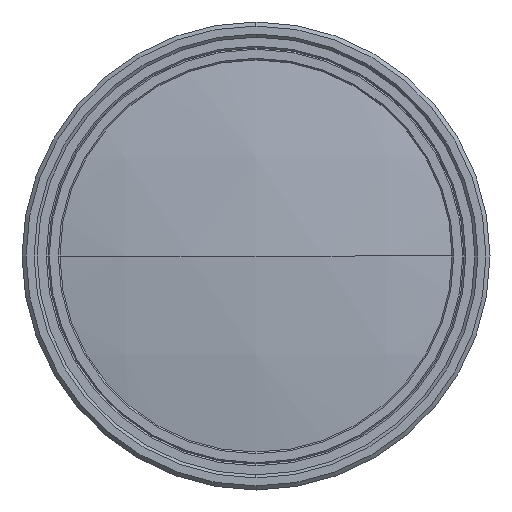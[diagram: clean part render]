
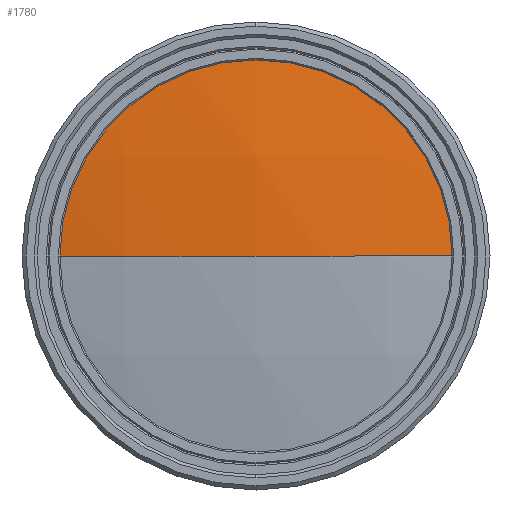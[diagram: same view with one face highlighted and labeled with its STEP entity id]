
A CAD part, left-side view. The second image highlights one B-rep face of the part: STEP entity #1780.
In plain terms, the highlighted spherical face has radius 146.2 mm.
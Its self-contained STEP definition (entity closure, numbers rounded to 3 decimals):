
#7 = DIRECTION ( 'NONE',  ( 0., 1., 0. ) ) ;
#218 = EDGE_CURVE ( 'NONE', #3448, #511, #741, .T. ) ;
#321 = ORIENTED_EDGE ( 'NONE', *, *, #3934, .F. ) ;
#467 = AXIS2_PLACEMENT_3D ( 'NONE', #1701, #4003, #2033 ) ;
#511 = VERTEX_POINT ( 'NONE', #1830 ) ;
#696 = VERTEX_POINT ( 'NONE', #703 ) ;
#703 = CARTESIAN_POINT ( 'NONE',  ( 7.062, 24.4, 0. ) ) ;
#741 = CIRCLE ( 'NONE', #467, 146.2 ) ;
#817 = DIRECTION ( 'NONE',  ( 1., 0., 0. ) ) ;
#899 = DIRECTION ( 'NONE',  ( 0., 0., -1. ) ) ;
#982 = CARTESIAN_POINT ( 'NONE',  ( 151.211, 0., 0. ) ) ;
#1020 = DIRECTION ( 'NONE',  ( 1., 0., 0. ) ) ;
#1325 = EDGE_CURVE ( 'NONE', #3448, #696, #2298, .T. ) ;
#1418 = SPHERICAL_SURFACE ( 'NONE', #3675, 146.2 ) ;
#1682 = AXIS2_PLACEMENT_3D ( 'NONE', #2856, #899, #3184 ) ;
#1701 = CARTESIAN_POINT ( 'NONE',  ( 151.211, 0., 0. ) ) ;
#1780 = ADVANCED_FACE ( 'NONE', ( #3158 ), #1418, .T. ) ;
#1830 = CARTESIAN_POINT ( 'NONE',  ( 7.062, -24.4, 0. ) ) ;
#2015 = ORIENTED_EDGE ( 'NONE', *, *, #1325, .F. ) ;
#2033 = DIRECTION ( 'NONE',  ( 0., -1., 0. ) ) ;
#2154 = AXIS2_PLACEMENT_3D ( 'NONE', #2978, #1020, #3308 ) ;
#2298 = CIRCLE ( 'NONE', #1682, 146.2 ) ;
#2390 = ORIENTED_EDGE ( 'NONE', *, *, #3437, .F. ) ;
#2466 = EDGE_LOOP ( 'NONE', ( #2015, #3101, #321, #2390 ) ) ;
#2643 = CARTESIAN_POINT ( 'NONE',  ( 5.011, 0., 0. ) ) ;
#2777 = CARTESIAN_POINT ( 'NONE',  ( 7.062, 0., 0. ) ) ;
#2856 = CARTESIAN_POINT ( 'NONE',  ( 151.211, 0., 0. ) ) ;
#2978 = CARTESIAN_POINT ( 'NONE',  ( 7.062, 0., 0. ) ) ;
#3083 = AXIS2_PLACEMENT_3D ( 'NONE', #2777, #817, #3098 ) ;
#3098 = DIRECTION ( 'NONE',  ( 0., 0., -1. ) ) ;
#3101 = ORIENTED_EDGE ( 'NONE', *, *, #218, .T. ) ;
#3158 = FACE_OUTER_BOUND ( 'NONE', #2466, .T. ) ;
#3179 = CARTESIAN_POINT ( 'NONE',  ( 7.062, 0., 24.4 ) ) ;
#3184 = DIRECTION ( 'NONE',  ( -1., 0., 0. ) ) ;
#3266 = CIRCLE ( 'NONE', #2154, 24.4 ) ;
#3271 = DIRECTION ( 'NONE',  ( 0., 0., 1. ) ) ;
#3308 = DIRECTION ( 'NONE',  ( 0., 0., -1. ) ) ;
#3437 = EDGE_CURVE ( 'NONE', #696, #4107, #3266, .T. ) ;
#3448 = VERTEX_POINT ( 'NONE', #2643 ) ;
#3675 = AXIS2_PLACEMENT_3D ( 'NONE', #982, #3271, #7 ) ;
#3934 = EDGE_CURVE ( 'NONE', #4107, #511, #4129, .T. ) ;
#4003 = DIRECTION ( 'NONE',  ( 0., 0., 1. ) ) ;
#4107 = VERTEX_POINT ( 'NONE', #3179 ) ;
#4129 = CIRCLE ( 'NONE', #3083, 24.4 ) ;
